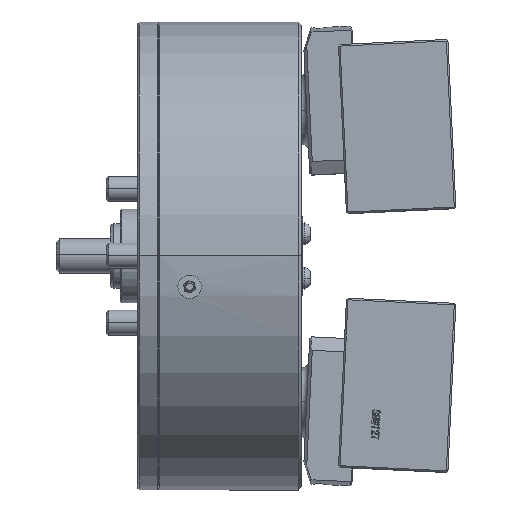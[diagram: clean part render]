
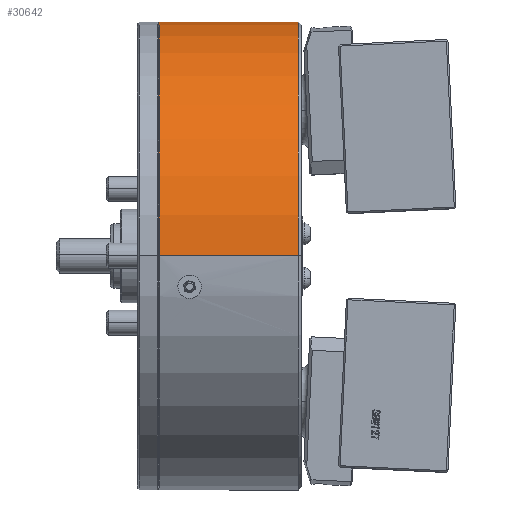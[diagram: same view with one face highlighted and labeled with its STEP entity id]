
A CAD part, top view. The second image highlights one B-rep face of the part: STEP entity #30642.
In plain terms, the highlighted cylindrical face has radius 150 mm (diameter 300 mm), a partial arc.
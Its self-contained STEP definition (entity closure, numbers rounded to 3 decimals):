
#1116 = VECTOR ( 'NONE', #39216, 1000. ) ;
#2804 = CIRCLE ( 'NONE', #36485, 150. ) ;
#4158 = CARTESIAN_POINT ( 'NONE',  ( -91.2, 0., 0. ) ) ;
#7861 = VERTEX_POINT ( 'NONE', #33842 ) ;
#7967 = DIRECTION ( 'NONE',  ( 0., 0., -1. ) ) ;
#9880 = DIRECTION ( 'NONE',  ( 0., 0., -1. ) ) ;
#10054 = CIRCLE ( 'NONE', #44718, 150. ) ;
#11156 = LINE ( 'NONE', #39601, #1116 ) ;
#11732 = LINE ( 'NONE', #22699, #29432 ) ;
#13437 = ORIENTED_EDGE ( 'NONE', *, *, #43592, .T. ) ;
#14785 = DIRECTION ( 'NONE',  ( 1., 0., 0. ) ) ;
#15563 = DIRECTION ( 'NONE',  ( 1., 0., 0. ) ) ;
#17286 = ORIENTED_EDGE ( 'NONE', *, *, #19463, .F. ) ;
#17493 = FACE_OUTER_BOUND ( 'NONE', #22801, .T. ) ;
#18659 = VERTEX_POINT ( 'NONE', #40743 ) ;
#19209 = ORIENTED_EDGE ( 'NONE', *, *, #25400, .F. ) ;
#19463 = EDGE_CURVE ( 'NONE', #18659, #33662, #11156, .T. ) ;
#21142 = VERTEX_POINT ( 'NONE', #48837 ) ;
#21315 = DIRECTION ( 'NONE',  ( 1., 0., 0. ) ) ;
#22340 = CARTESIAN_POINT ( 'NONE',  ( -2., 0., -150. ) ) ;
#22699 = CARTESIAN_POINT ( 'NONE',  ( 9.899, 0., 150. ) ) ;
#22801 = EDGE_LOOP ( 'NONE', ( #13437, #44431, #19209, #17286 ) ) ;
#25400 = EDGE_CURVE ( 'NONE', #33662, #21142, #10054, .T. ) ;
#26225 = EDGE_CURVE ( 'NONE', #7861, #21142, #11732, .T. ) ;
#29432 = VECTOR ( 'NONE', #15563, 1000. ) ;
#30544 = DIRECTION ( 'NONE',  ( 1., 0., 0. ) ) ;
#30642 = ADVANCED_FACE ( 'NONE', ( #17493 ), #35181, .T. ) ;
#33662 = VERTEX_POINT ( 'NONE', #22340 ) ;
#33842 = CARTESIAN_POINT ( 'NONE',  ( -91.2, 0., 150. ) ) ;
#35181 = CYLINDRICAL_SURFACE ( 'NONE', #38885, 150. ) ;
#36242 = CARTESIAN_POINT ( 'NONE',  ( 9.899, 0., 0. ) ) ;
#36485 = AXIS2_PLACEMENT_3D ( 'NONE', #4158, #30544, #7967 ) ;
#37390 = CARTESIAN_POINT ( 'NONE',  ( -2., 0., 0. ) ) ;
#38885 = AXIS2_PLACEMENT_3D ( 'NONE', #36242, #21315, #9880 ) ;
#39216 = DIRECTION ( 'NONE',  ( 1., 0., 0. ) ) ;
#39601 = CARTESIAN_POINT ( 'NONE',  ( 9.899, 0., -150. ) ) ;
#40743 = CARTESIAN_POINT ( 'NONE',  ( -91.2, 0., -150. ) ) ;
#41160 = DIRECTION ( 'NONE',  ( 0., 0., -1. ) ) ;
#43592 = EDGE_CURVE ( 'NONE', #18659, #7861, #2804, .T. ) ;
#44431 = ORIENTED_EDGE ( 'NONE', *, *, #26225, .T. ) ;
#44718 = AXIS2_PLACEMENT_3D ( 'NONE', #37390, #14785, #41160 ) ;
#48837 = CARTESIAN_POINT ( 'NONE',  ( -2., 0., 150. ) ) ;
